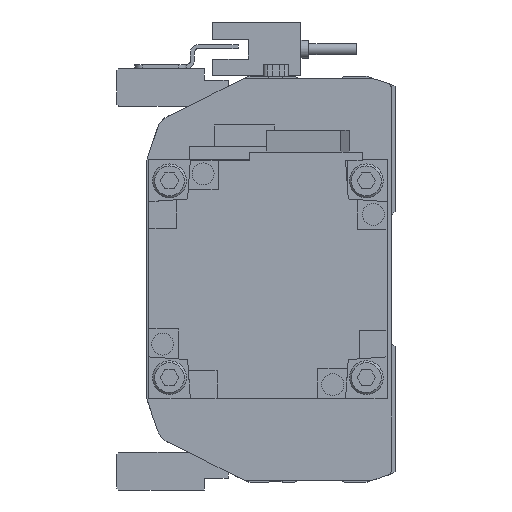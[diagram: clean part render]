
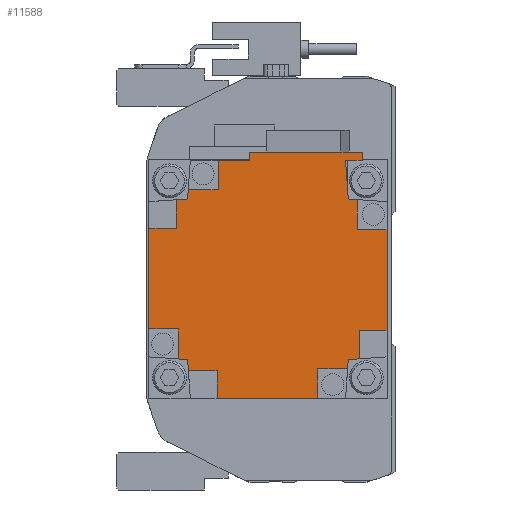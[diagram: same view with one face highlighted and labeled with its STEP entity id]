
A CAD part, left-side view. The second image highlights one B-rep face of the part: STEP entity #11588.
In plain terms, the highlighted planar face has unit normal (-1, 0, 0) as drawn and (0, 1, 0) by its records, which use the part's own axes.
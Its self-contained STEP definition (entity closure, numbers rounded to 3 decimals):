
#199=PLANE('',#12389);
#720=LINE('',#17168,#1933);
#737=LINE('',#17204,#1950);
#739=LINE('',#17208,#1952);
#740=LINE('',#17211,#1953);
#741=LINE('',#17213,#1954);
#742=LINE('',#17215,#1955);
#743=LINE('',#17217,#1956);
#744=LINE('',#17219,#1957);
#745=LINE('',#17221,#1958);
#746=LINE('',#17223,#1959);
#747=LINE('',#17225,#1960);
#748=LINE('',#17227,#1961);
#749=LINE('',#17229,#1962);
#750=LINE('',#17231,#1963);
#751=LINE('',#17233,#1964);
#752=LINE('',#17235,#1965);
#753=LINE('',#17237,#1966);
#754=LINE('',#17239,#1967);
#755=LINE('',#17241,#1968);
#756=LINE('',#17243,#1969);
#757=LINE('',#17245,#1970);
#758=LINE('',#17247,#1971);
#759=LINE('',#17249,#1972);
#760=LINE('',#17251,#1973);
#761=LINE('',#17253,#1974);
#762=LINE('',#17254,#1975);
#763=LINE('',#17255,#1976);
#764=LINE('',#17257,#1977);
#765=LINE('',#17259,#1978);
#766=LINE('',#17261,#1979);
#1933=VECTOR('',#13714,1000.);
#1950=VECTOR('',#13733,1000.);
#1952=VECTOR('',#13737,1000.);
#1953=VECTOR('',#13738,1000.);
#1954=VECTOR('',#13739,1000.);
#1955=VECTOR('',#13740,1000.);
#1956=VECTOR('',#13741,1000.);
#1957=VECTOR('',#13742,1000.);
#1958=VECTOR('',#13743,1000.);
#1959=VECTOR('',#13744,1000.);
#1960=VECTOR('',#13745,1000.);
#1961=VECTOR('',#13746,1000.);
#1962=VECTOR('',#13747,1000.);
#1963=VECTOR('',#13748,1000.);
#1964=VECTOR('',#13749,1000.);
#1965=VECTOR('',#13750,1000.);
#1966=VECTOR('',#13751,1000.);
#1967=VECTOR('',#13752,1000.);
#1968=VECTOR('',#13753,1000.);
#1969=VECTOR('',#13754,1000.);
#1970=VECTOR('',#13755,1000.);
#1971=VECTOR('',#13756,1000.);
#1972=VECTOR('',#13757,1000.);
#1973=VECTOR('',#13758,1000.);
#1974=VECTOR('',#13759,1000.);
#1975=VECTOR('',#13760,1000.);
#1976=VECTOR('',#13761,1000.);
#1977=VECTOR('',#13762,1000.);
#1978=VECTOR('',#13763,1000.);
#1979=VECTOR('',#13764,1000.);
#3347=ORIENTED_EDGE('',*,*,#6587,.T.);
#3348=ORIENTED_EDGE('',*,*,#6588,.T.);
#3349=ORIENTED_EDGE('',*,*,#6589,.T.);
#3350=ORIENTED_EDGE('',*,*,#6590,.T.);
#3351=ORIENTED_EDGE('',*,*,#6591,.T.);
#3352=ORIENTED_EDGE('',*,*,#6592,.F.);
#3353=ORIENTED_EDGE('',*,*,#6593,.F.);
#3354=ORIENTED_EDGE('',*,*,#6594,.T.);
#3355=ORIENTED_EDGE('',*,*,#6595,.T.);
#3356=ORIENTED_EDGE('',*,*,#6596,.T.);
#3357=ORIENTED_EDGE('',*,*,#6597,.T.);
#3358=ORIENTED_EDGE('',*,*,#6598,.T.);
#3359=ORIENTED_EDGE('',*,*,#6599,.F.);
#3360=ORIENTED_EDGE('',*,*,#6600,.F.);
#3361=ORIENTED_EDGE('',*,*,#6601,.T.);
#3362=ORIENTED_EDGE('',*,*,#6602,.T.);
#3363=ORIENTED_EDGE('',*,*,#6603,.T.);
#3364=ORIENTED_EDGE('',*,*,#6604,.T.);
#3365=ORIENTED_EDGE('',*,*,#6605,.T.);
#3366=ORIENTED_EDGE('',*,*,#6606,.F.);
#3367=ORIENTED_EDGE('',*,*,#6607,.F.);
#3368=ORIENTED_EDGE('',*,*,#6608,.T.);
#3369=ORIENTED_EDGE('',*,*,#6609,.F.);
#3370=ORIENTED_EDGE('',*,*,#6568,.F.);
#3371=ORIENTED_EDGE('',*,*,#6610,.T.);
#3372=ORIENTED_EDGE('',*,*,#6585,.T.);
#3373=ORIENTED_EDGE('',*,*,#6611,.T.);
#3374=ORIENTED_EDGE('',*,*,#6612,.T.);
#3375=ORIENTED_EDGE('',*,*,#6613,.F.);
#3376=ORIENTED_EDGE('',*,*,#6614,.F.);
#6568=EDGE_CURVE('',#8215,#8216,#720,.T.);
#6585=EDGE_CURVE('',#8233,#8232,#737,.T.);
#6587=EDGE_CURVE('',#8234,#8235,#739,.T.);
#6588=EDGE_CURVE('',#8235,#8236,#740,.T.);
#6589=EDGE_CURVE('',#8236,#8237,#741,.T.);
#6590=EDGE_CURVE('',#8237,#8238,#742,.T.);
#6591=EDGE_CURVE('',#8238,#8239,#743,.T.);
#6592=EDGE_CURVE('',#8240,#8239,#744,.T.);
#6593=EDGE_CURVE('',#8241,#8240,#745,.T.);
#6594=EDGE_CURVE('',#8241,#8242,#746,.T.);
#6595=EDGE_CURVE('',#8242,#8243,#747,.T.);
#6596=EDGE_CURVE('',#8243,#8244,#748,.T.);
#6597=EDGE_CURVE('',#8244,#8245,#749,.T.);
#6598=EDGE_CURVE('',#8245,#8246,#750,.T.);
#6599=EDGE_CURVE('',#8247,#8246,#751,.T.);
#6600=EDGE_CURVE('',#8248,#8247,#752,.T.);
#6601=EDGE_CURVE('',#8248,#8249,#753,.T.);
#6602=EDGE_CURVE('',#8249,#8250,#754,.T.);
#6603=EDGE_CURVE('',#8250,#8251,#755,.T.);
#6604=EDGE_CURVE('',#8251,#8252,#756,.T.);
#6605=EDGE_CURVE('',#8252,#8253,#757,.T.);
#6606=EDGE_CURVE('',#8254,#8253,#758,.T.);
#6607=EDGE_CURVE('',#8255,#8254,#759,.T.);
#6608=EDGE_CURVE('',#8255,#8256,#760,.T.);
#6609=EDGE_CURVE('',#8216,#8256,#761,.T.);
#6610=EDGE_CURVE('',#8215,#8233,#762,.T.);
#6611=EDGE_CURVE('',#8232,#8257,#763,.T.);
#6612=EDGE_CURVE('',#8257,#8258,#764,.T.);
#6613=EDGE_CURVE('',#8259,#8258,#765,.T.);
#6614=EDGE_CURVE('',#8234,#8259,#766,.T.);
#8215=VERTEX_POINT('',#17169);
#8216=VERTEX_POINT('',#17170);
#8232=VERTEX_POINT('',#17203);
#8233=VERTEX_POINT('',#17205);
#8234=VERTEX_POINT('',#17209);
#8235=VERTEX_POINT('',#17210);
#8236=VERTEX_POINT('',#17212);
#8237=VERTEX_POINT('',#17214);
#8238=VERTEX_POINT('',#17216);
#8239=VERTEX_POINT('',#17218);
#8240=VERTEX_POINT('',#17220);
#8241=VERTEX_POINT('',#17222);
#8242=VERTEX_POINT('',#17224);
#8243=VERTEX_POINT('',#17226);
#8244=VERTEX_POINT('',#17228);
#8245=VERTEX_POINT('',#17230);
#8246=VERTEX_POINT('',#17232);
#8247=VERTEX_POINT('',#17234);
#8248=VERTEX_POINT('',#17236);
#8249=VERTEX_POINT('',#17238);
#8250=VERTEX_POINT('',#17240);
#8251=VERTEX_POINT('',#17242);
#8252=VERTEX_POINT('',#17244);
#8253=VERTEX_POINT('',#17246);
#8254=VERTEX_POINT('',#17248);
#8255=VERTEX_POINT('',#17250);
#8256=VERTEX_POINT('',#17252);
#8257=VERTEX_POINT('',#17256);
#8258=VERTEX_POINT('',#17258);
#8259=VERTEX_POINT('',#17260);
#9734=EDGE_LOOP('',(#3347,#3348,#3349,#3350,#3351,#3352,#3353,#3354,#3355,
#3356,#3357,#3358,#3359,#3360,#3361,#3362,#3363,#3364,#3365,#3366,#3367,
#3368,#3369,#3370,#3371,#3372,#3373,#3374,#3375,#3376));
#10573=FACE_BOUND('',#9734,.T.);
#11588=ADVANCED_FACE('',(#10573),#199,.T.);
#12389=AXIS2_PLACEMENT_3D('',#17207,#13735,#13736);
#13714=DIRECTION('',(0.,0.,1.));
#13733=DIRECTION('',(0.,0.,-1.));
#13735=DIRECTION('',(0.,1.,0.));
#13736=DIRECTION('',(0.,0.,1.));
#13737=DIRECTION('',(-1.,0.,0.));
#13738=DIRECTION('',(0.,0.,-1.));
#13739=DIRECTION('',(-1.,0.,0.));
#13740=DIRECTION('',(0.,0.,1.));
#13741=DIRECTION('',(-1.,0.,0.));
#13742=DIRECTION('',(0.07,0.,-0.998));
#13743=DIRECTION('',(0.998,0.,-0.07));
#13744=DIRECTION('',(0.,0.,1.));
#13745=DIRECTION('',(-1.,0.,0.));
#13746=DIRECTION('',(0.,0.,1.));
#13747=DIRECTION('',(1.,0.,0.));
#13748=DIRECTION('',(0.,0.,1.));
#13749=DIRECTION('',(-0.998,0.,-0.07));
#13750=DIRECTION('',(-0.07,0.,-0.998));
#13751=DIRECTION('',(1.,0.,0.));
#13752=DIRECTION('',(0.,0.,1.));
#13753=DIRECTION('',(1.,0.,0.));
#13754=DIRECTION('',(0.,0.,-1.));
#13755=DIRECTION('',(1.,0.,0.));
#13756=DIRECTION('',(-0.07,0.,0.998));
#13757=DIRECTION('',(-0.998,0.,0.07));
#13758=DIRECTION('',(0.,0.,1.));
#13759=DIRECTION('',(-1.,0.,0.));
#13760=DIRECTION('',(-1.,0.,0.));
#13761=DIRECTION('',(-1.,0.,0.));
#13762=DIRECTION('',(0.,0.,-1.));
#13763=DIRECTION('',(0.998,0.,0.07));
#13764=DIRECTION('',(0.07,0.,0.998));
#17168=CARTESIAN_POINT('',(32.,130.7,-4.7));
#17169=CARTESIAN_POINT('',(32.,130.7,-4.7));
#17170=CARTESIAN_POINT('',(32.,130.7,23.7));
#17203=CARTESIAN_POINT('',(29.95,130.7,-12.5));
#17204=CARTESIAN_POINT('',(29.95,130.7,29.95));
#17205=CARTESIAN_POINT('',(29.95,130.7,-4.7));
#17207=CARTESIAN_POINT('',(0.,130.7,0.));
#17208=CARTESIAN_POINT('',(0.,130.7,-23.));
#17209=CARTESIAN_POINT('',(20.004,130.7,-23.));
#17210=CARTESIAN_POINT('',(12.8,130.7,-23.));
#17211=CARTESIAN_POINT('',(12.8,130.7,0.));
#17212=CARTESIAN_POINT('',(12.8,130.7,-29.95));
#17213=CARTESIAN_POINT('',(29.95,130.7,-29.95));
#17214=CARTESIAN_POINT('',(-12.5,130.7,-29.95));
#17215=CARTESIAN_POINT('',(-12.5,130.7,0.));
#17216=CARTESIAN_POINT('',(-12.5,130.7,-22.5));
#17217=CARTESIAN_POINT('',(0.,130.7,-22.5));
#17218=CARTESIAN_POINT('',(-20.039,130.7,-22.5));
#17219=CARTESIAN_POINT('',(-21.507,130.7,-1.504));
#17220=CARTESIAN_POINT('',(-20.2,130.7,-20.2));
#17221=CARTESIAN_POINT('',(-1.504,130.7,-21.507));
#17222=CARTESIAN_POINT('',(-23.,130.7,-20.004));
#17223=CARTESIAN_POINT('',(-23.,130.7,0.));
#17224=CARTESIAN_POINT('',(-23.,130.7,-12.8));
#17225=CARTESIAN_POINT('',(0.,130.7,-12.8));
#17226=CARTESIAN_POINT('',(-29.95,130.7,-12.8));
#17227=CARTESIAN_POINT('',(-29.95,130.7,-29.95));
#17228=CARTESIAN_POINT('',(-29.95,130.7,12.5));
#17229=CARTESIAN_POINT('',(0.,130.7,12.5));
#17230=CARTESIAN_POINT('',(-22.5,130.7,12.5));
#17231=CARTESIAN_POINT('',(-22.5,130.7,0.));
#17232=CARTESIAN_POINT('',(-22.5,130.7,20.039));
#17233=CARTESIAN_POINT('',(-1.504,130.7,21.507));
#17234=CARTESIAN_POINT('',(-20.2,130.7,20.2));
#17235=CARTESIAN_POINT('',(-21.507,130.7,1.504));
#17236=CARTESIAN_POINT('',(-20.004,130.7,23.));
#17237=CARTESIAN_POINT('',(0.,130.7,23.));
#17238=CARTESIAN_POINT('',(-12.8,130.7,23.));
#17239=CARTESIAN_POINT('',(-12.8,130.7,0.));
#17240=CARTESIAN_POINT('',(-12.8,130.7,29.95));
#17241=CARTESIAN_POINT('',(-29.95,130.7,29.95));
#17242=CARTESIAN_POINT('',(12.5,130.7,29.95));
#17243=CARTESIAN_POINT('',(12.5,130.7,0.));
#17244=CARTESIAN_POINT('',(12.5,130.7,22.5));
#17245=CARTESIAN_POINT('',(0.,130.7,22.5));
#17246=CARTESIAN_POINT('',(20.039,130.7,22.5));
#17247=CARTESIAN_POINT('',(21.507,130.7,1.504));
#17248=CARTESIAN_POINT('',(20.2,130.7,20.2));
#17249=CARTESIAN_POINT('',(1.504,130.7,21.507));
#17250=CARTESIAN_POINT('',(29.95,130.7,19.518));
#17251=CARTESIAN_POINT('',(29.95,130.7,-4.7));
#17252=CARTESIAN_POINT('',(29.95,130.7,23.7));
#17253=CARTESIAN_POINT('',(32.,130.7,23.7));
#17254=CARTESIAN_POINT('',(32.,130.7,-4.7));
#17255=CARTESIAN_POINT('',(0.,130.7,-12.5));
#17256=CARTESIAN_POINT('',(22.5,130.7,-12.5));
#17257=CARTESIAN_POINT('',(22.5,130.7,0.));
#17258=CARTESIAN_POINT('',(22.5,130.7,-20.039));
#17259=CARTESIAN_POINT('',(1.504,130.7,-21.507));
#17260=CARTESIAN_POINT('',(20.2,130.7,-20.2));
#17261=CARTESIAN_POINT('',(21.507,130.7,-1.504));
